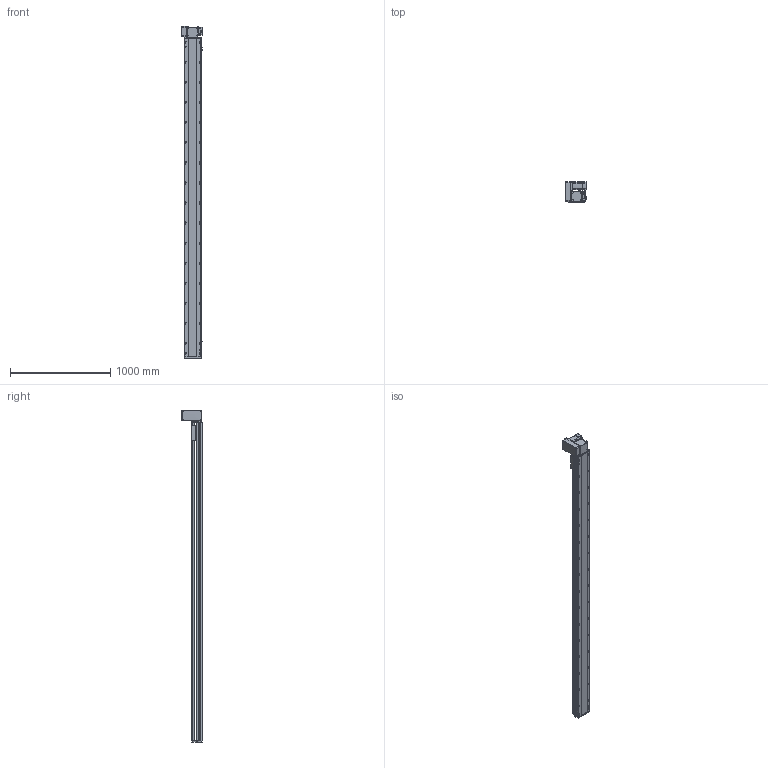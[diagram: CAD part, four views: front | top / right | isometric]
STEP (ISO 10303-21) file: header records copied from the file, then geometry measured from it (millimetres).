
FILE_DESCRIPTION (( 'STEP AP214' ), '1' );
FILE_NAME ('RTB17S-XX-2900-LW-M75-C4.STEP', '2025-12-12T01:19:36', ( '' ), ( '' ), 'SwSTEP 2.0', 'SolidWorks 2018', '' );
FILE_SCHEMA (( 'AUTOMOTIVE_DESIGN' ));
Length unit declared in the file: millimetre
Products named in the file (15): RTB22S-GY-008-M75--萇儂啣^RTB17S-LW-々湍釱蚾饜-750W_RTB17S-XX-XX-LW-M75-C4; RTB17S-L-014-T20-P75--々湍釱^RTB17S-LW-々湍釱蚾饜-750W_RTB17S-XX-XX-LW-M75-C4; RTB17S-L-001-耜醱啣^RTB17S-XX-XX-LW-M75-C4; RTB17S-賑釱^RTB17S-XX-XX-LW-M75-C4; RTB17S-LW-々湍釱蚾饜-750W^RTB17S-XX-XX-LW-M75-C4; RTB22S-GY-017P^RTB17S-LW-々湍釱蚾饜-750W_RTB17S-XX-XX-LW-M75-C4; RTB17S-L-004-賑釱^RTB17S-賑釱_RTB17S-XX-XX-LW-M75-C4; RTB17S-L-007奻裔^RTB17S-XX-XX-LW-M75-C4; RTH13-BL-012覜茼え俋离^RTB17S-賑釱_RTB17S-XX-XX-LW-M75-C4; 750W萇儂^RTB17S-XX-XX-LW-M75-C4; RTB17S-XX-2900-LW-M75-C4; RTB22S-GY-005P^RTB17S-LW-々湍釱蚾饜-750W_RTB17S-XX-XX-LW-M75-C4; RTB17-R-011菁釱^RTB17S-XX-XX-LW-M75-C4; EE672^RTB17S-XX-XX-LW-M75-C4; RTB22S-GY-018P^RTB17S-LW-々湍釱蚾饜-750W_RTB17S-XX-XX-LW-M75-C4
Assembly tree (17 placements, depth 3):
  RTB17S-XX-2900-LW-M75-C4
    RTB17-R-011菁釱^RTB17S-XX-XX-LW-M75-C4
    EE672^RTB17S-XX-XX-LW-M75-C4  x3
    RTB17S-L-001-耜醱啣^RTB17S-XX-XX-LW-M75-C4
    RTB17S-賑釱^RTB17S-XX-XX-LW-M75-C4
      RTB17S-L-004-賑釱^RTB17S-賑釱_RTB17S-XX-XX-LW-M75-C4
      RTH13-BL-012覜茼え俋离^RTB17S-賑釱_RTB17S-XX-XX-LW-M75-C4
    RTB17S-L-007奻裔^RTB17S-XX-XX-LW-M75-C4
    750W萇儂^RTB17S-XX-XX-LW-M75-C4
    RTB17S-LW-々湍釱蚾饜-750W^RTB17S-XX-XX-LW-M75-C4
      RTB17S-L-014-T20-P75--々湍釱^RTB17S-LW-々湍釱蚾饜-750W_RTB17S-XX-XX-LW-M75-C4
      RTB22S-GY-005P^RTB17S-LW-々湍釱蚾饜-750W_RTB17S-XX-XX-LW-M75-C4
      RTB22S-GY-017P^RTB17S-LW-々湍釱蚾饜-750W_RTB17S-XX-XX-LW-M75-C4  x2
      RTB22S-GY-008-M75--萇儂啣^RTB17S-LW-々湍釱蚾饜-750W_RTB17S-XX-XX-LW-M75-C4
      RTB22S-GY-018P^RTB17S-LW-々湍釱蚾饜-750W_RTB17S-XX-XX-LW-M75-C4
Bounding box: 210.4 x 201.5 x 3307.5 mm (x, y, z)
Volume: 24075719.8 mm3; surface area: 4405643.9 mm2
Topology: 17 solids, 17 shells, 2249 faces, 6322 edges, 4094 vertices
Faces by surface type: plane 990, cylinder 843, bspline 294, cone 110, sphere 8, torus 4
Entity records: 65782 total; most frequent: CARTESIAN_POINT 19586, ORIENTED_EDGE 9488, DIRECTION 8762, EDGE_CURVE 4744, AXIS2_PLACEMENT_3D 3114, VERTEX_POINT 3098, VECTOR 2534, LINE 2534
